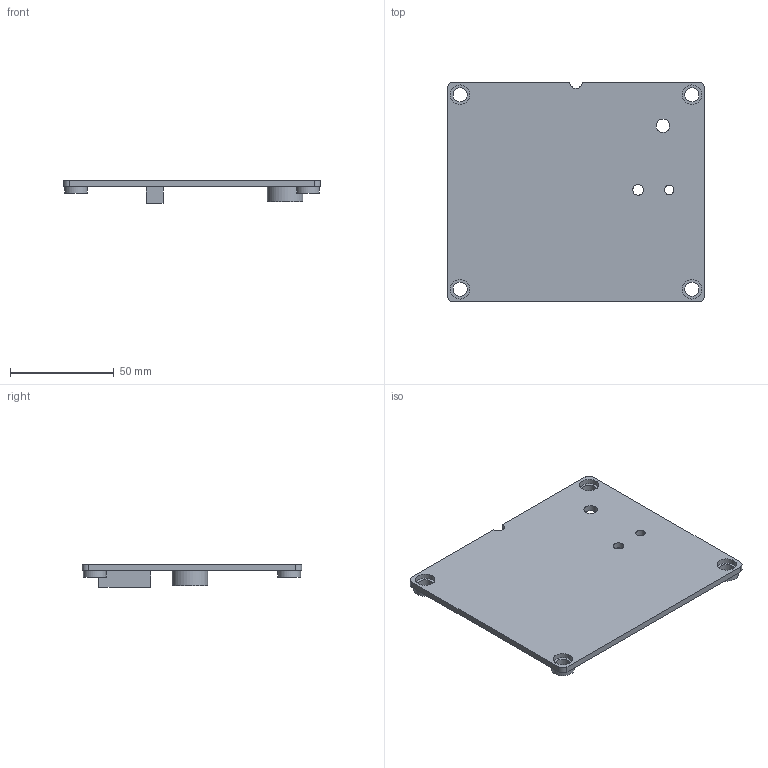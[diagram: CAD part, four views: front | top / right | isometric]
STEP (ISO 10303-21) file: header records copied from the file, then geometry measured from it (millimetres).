
FILE_DESCRIPTION(('Open CASCADE Model'),'2;1');
FILE_NAME('Open CASCADE Shape Model','2026-09-21T16:06:42',('Author'),( 'Open CASCADE'),'Open CASCADE STEP processor 7.9','Open CASCADE 7.9' ,'Unknown');
FILE_SCHEMA(('AUTOMOTIVE_DESIGN { 1 0 10303 214 1 1 1 1 }'));
Length unit declared in the file: millimetre
Products named in the file (1): Open CASCADE STEP translator 7.9 2
Bounding box: 124.1 x 106.1 x 11 mm (x, y, z)
Volume: 41435.2 mm3; surface area: 29616.6 mm2
Topology: 1 solids, 1 shells, 44 faces, 93 edges, 62 vertices
Faces by surface type: plane 22, cylinder 22
Full cylindrical faces by diameter (mm): 4.6 x1, 5.2 x1, 6.5 x1, 6.8 x4, 9.4 x4, 11 x4, 13.3 x1, 17.2 x1
Entity records: 2525 total; most frequent: CARTESIAN_POINT 543, DIRECTION 386, LINE 190, VECTOR 190, ORIENTED_EDGE 186, PCURVE 186, DEFINITIONAL_REPRESENTATION 186, EDGE_CURVE 93
